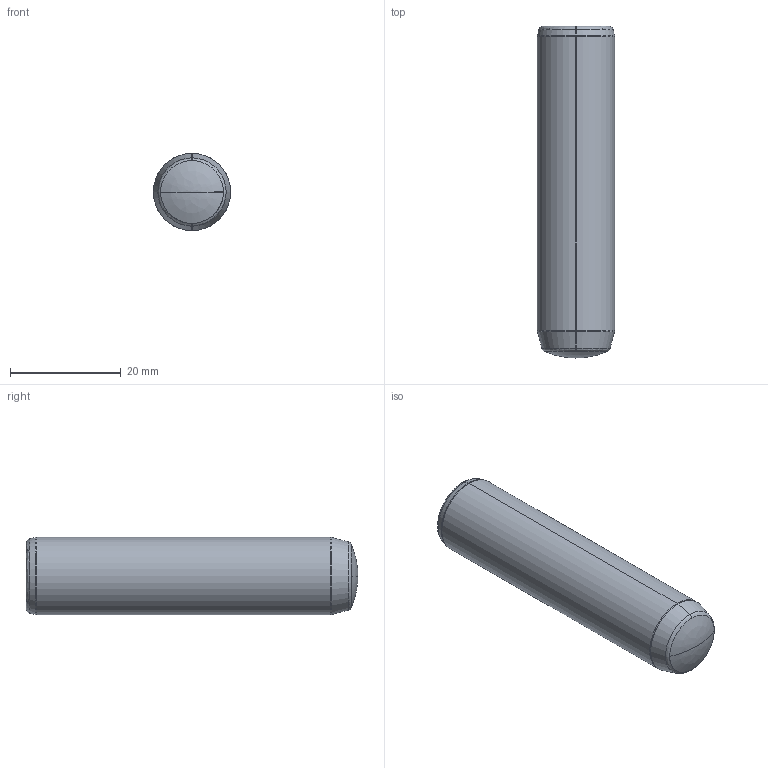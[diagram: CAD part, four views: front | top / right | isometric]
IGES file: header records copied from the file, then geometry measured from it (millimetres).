
Start section: SolidWorks IGES file using analytic representation for surfaces
Global section: file name: D:\Cleonir_arquivos\MT_15_07\Pinos Guia DIN 7979 ISO 8735 com rosca\PG714060.igs; native system: SolidWorks 2013; preprocessor: SolidWorks 2013; author: Cleonir; date: 130730.171800; units: millimetre
Bounding box: 14 x 60 x 14 mm (x, y, z)
Surface area: 3291.6 mm2 (no closed solid volume)
Topology: 0 solids, 0 shells, 287 faces, 2082 edges, 2079 vertices
Faces by surface type: bspline 265, revolution 22
